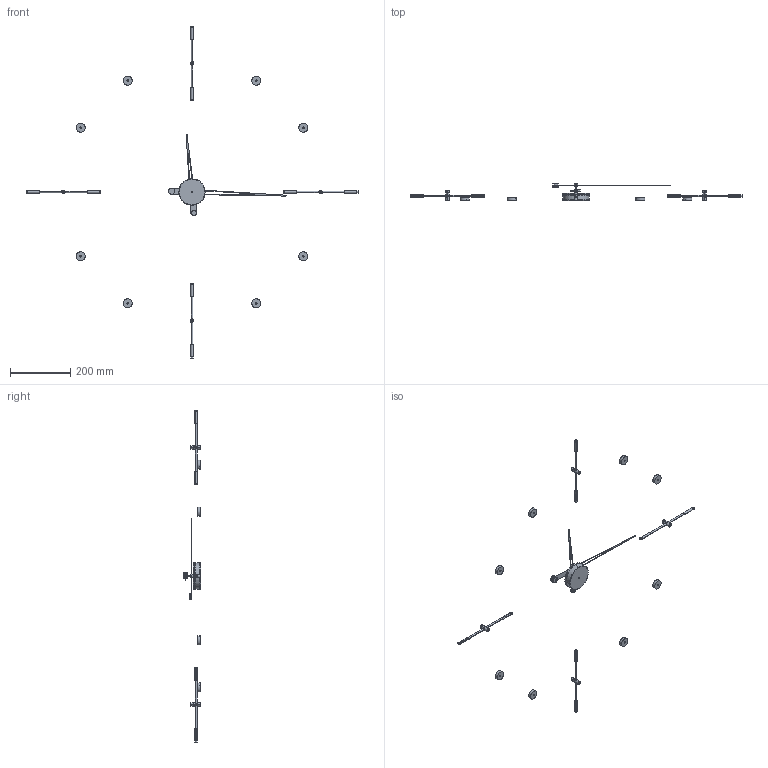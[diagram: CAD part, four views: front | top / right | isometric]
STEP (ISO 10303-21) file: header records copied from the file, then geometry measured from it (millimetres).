
FILE_DESCRIPTION (( 'STEP AP214' ), '1' );
FILE_NAME ('Mixto i.STEP', '2016-09-15T08:10:27', ( '' ), ( '' ), 'SwSTEP 2.0', 'SolidWorks 2013', '' );
FILE_SCHEMA (( 'AUTOMOTIVE_DESIGN' ));
Length unit declared in the file: millimetre
Products named in the file (28): Esparrago_roscado_merlin; Varilla_nogal_señal_horaria_merlín; Señal_horaria_merlín; Anclaje_señal_horaria_merlin; Embellecedor; Contrapeso_pequeño; pasante; aguja_horaria_calada_inox; Aguja_horaria_calada_inox; Pieza2; Aguja_minutera_calada_inox; Tuerca; Pieza_caja_inferior; arandela; Caja_acero_inox; Cierre_contrapeso; Embellecedor_señal_horaria_merlín; arandela_2; Señal_horaria_rodón; Contrapeso_mediano; Mecanismo; Pieza_caja_superior; Esparrago; Mixto i; aguja_minutera_calada_inox; Tuerca 1.5; Casquillo_señal_horaria_merlín; Axioma_i
Assembly tree (40 placements, depth 4):
  Mixto i
    Axioma_i
      Caja_acero_inox
        Pieza_caja_inferior
        Pieza_caja_superior
        Mecanismo
        Pieza2
      Aguja_minutera_calada_inox
        aguja_minutera_calada_inox
        Contrapeso_mediano  x2
        arandela_2
        Tuerca 1.5
        Embellecedor
        Esparrago
      Aguja_horaria_calada_inox
        aguja_horaria_calada_inox
        Contrapeso_pequeño
        Cierre_contrapeso
        arandela
        Tuerca
        pasante
        arandela_2
    Señal_horaria_merlín  x4
      Anclaje_señal_horaria_merlin
      Casquillo_señal_horaria_merlín
      Embellecedor_señal_horaria_merlín
      Esparrago_roscado_merlin
      Varilla_nogal_señal_horaria_merlín
    Señal_horaria_rodón  x8
Bounding box: 1100 x 57.3 x 1100 mm (x, y, z)
Volume: 161520.7 mm3; surface area: 137613.5 mm2
Topology: 50 solids, 50 shells, 437 faces, 878 edges, 570 vertices
Faces by surface type: cylinder 238, plane 161, torus 26, cone 12
Entity records: 8222 total; most frequent: CARTESIAN_POINT 1408, DIRECTION 1394, ORIENTED_EDGE 1036, AXIS2_PLACEMENT_3D 592, EDGE_CURVE 518, VERTEX_POINT 330, EDGE_LOOP 298, CIRCLE 296
